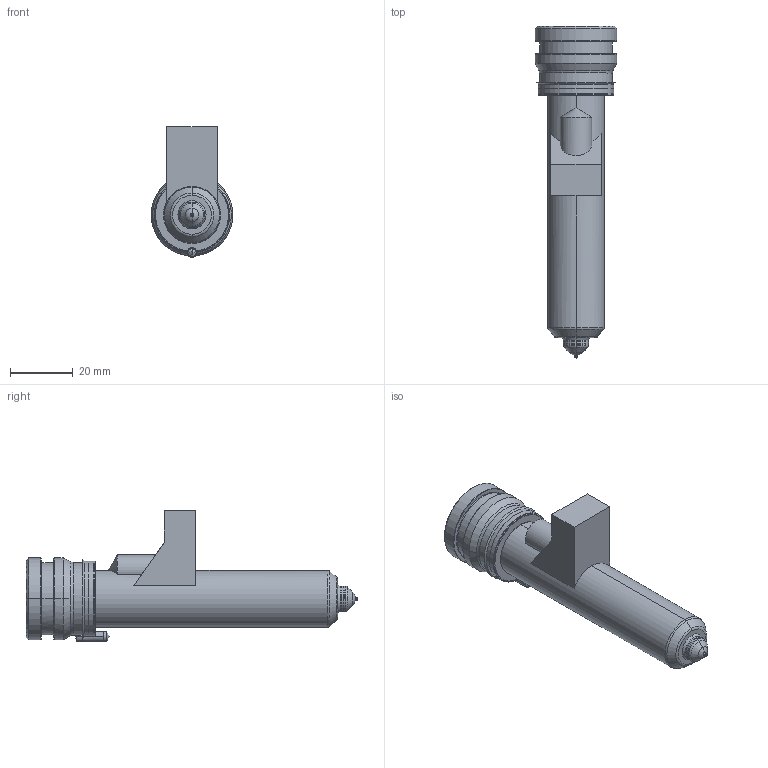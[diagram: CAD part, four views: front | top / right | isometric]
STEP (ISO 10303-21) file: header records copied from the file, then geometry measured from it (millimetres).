
FILE_DESCRIPTION((''),'2;1');
FILE_NAME('MPN-08-24-VX8-086-M','2026-02-05T13:30:54',('UPTIO'),('Thermoplay S.p.A.'),'CREO PARAMETRIC BY PTC INC, 2023494','CREO PARAMETRIC BY PTC INC, 2023494','');
FILE_SCHEMA(('CONFIG_CONTROL_DESIGN','SHAPE_APPEARANCE_LAYERS_GROUPS'));
Length unit declared in the file: millimetre
Products named in the file (1): MPN-08-24-VX8-086-M
Bounding box: 26 x 105.5 x 41.5 mm (x, y, z)
Volume: 21094.1 mm3; surface area: 27489.1 mm2
Topology: 2 solids, 3 shells, 529 faces, 1372 edges, 842 vertices
Faces by surface type: cylinder 174, plane 143, bspline 77, torus 60, cone 60, sphere 9, extrusion 6
Entity records: 27766 total; most frequent: CARTESIAN_POINT 12245, ORIENTED_EDGE 2726, DIRECTION 2495, EDGE_CURVE 1363, AXIS2_PLACEMENT_3D 975, VERTEX_POINT 842, EDGE_LOOP 559, VECTOR 545
